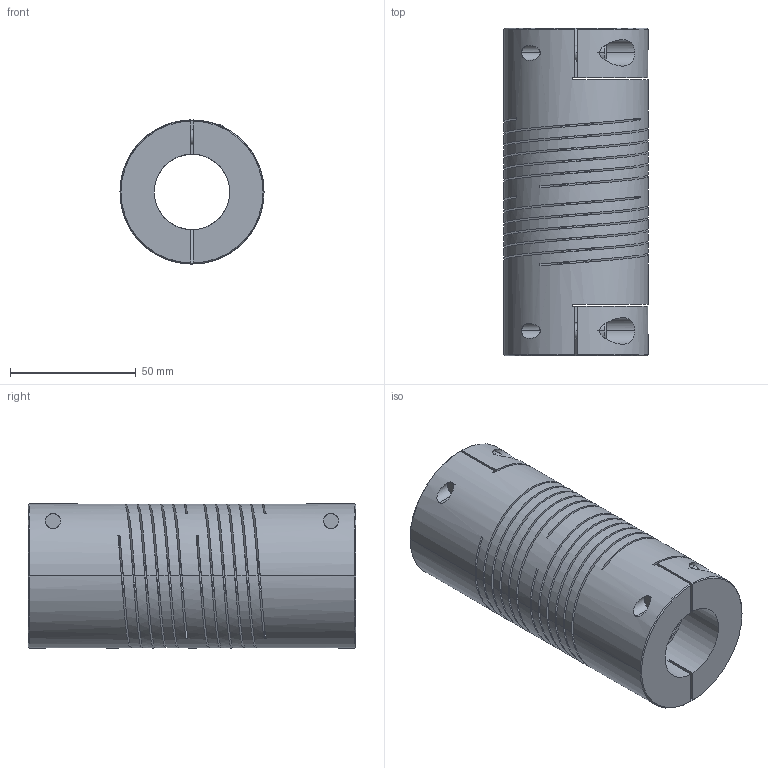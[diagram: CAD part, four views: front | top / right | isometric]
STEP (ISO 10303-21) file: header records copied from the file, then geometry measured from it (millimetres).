
FILE_DESCRIPTION((''),'2;1');
FILE_NAME('727_57','2006-12-05T',('Gary Melling'),(''),'PRO/ENGINEER BY PARAMETRIC TECHNOLOGY CORPORATION, 2006240','PRO/ENGINEER BY PARAMETRIC TECHNOLOGY CORPORATION, 2006240','');
FILE_SCHEMA(('CONFIG_CONTROL_DESIGN'));
Length unit declared in the file: millimetre
Products named in the file (1): 727_57
Bounding box: 57.2 x 130 x 57.2 mm (x, y, z)
Volume: 218445.3 mm3; surface area: 85472.1 mm2
Topology: 1 solids, 1 shells, 136 faces, 406 edges, 268 vertices
Faces by surface type: cylinder 60, plane 58, bspline 12, cone 6
Entity records: 8045 total; most frequent: CARTESIAN_POINT 4557, ORIENTED_EDGE 812, DIRECTION 584, EDGE_CURVE 406, VERTEX_POINT 268, VECTOR 204, LINE 204, AXIS2_PLACEMENT_3D 190
